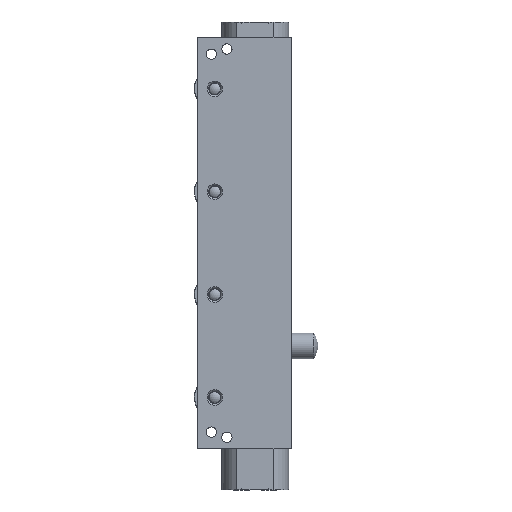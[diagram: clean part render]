
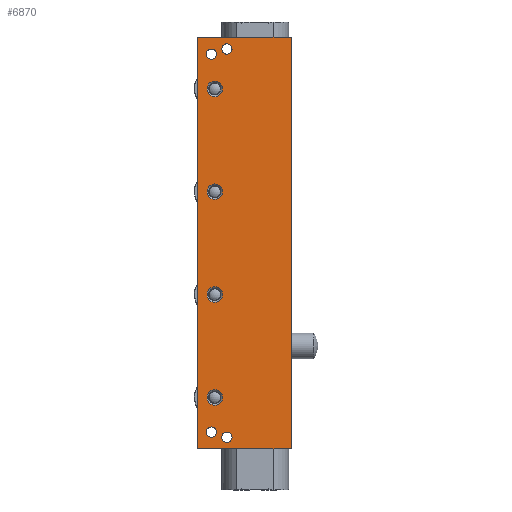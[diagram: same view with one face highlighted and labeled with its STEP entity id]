
A CAD part, left-side view. The second image highlights one B-rep face of the part: STEP entity #6870.
In plain terms, the highlighted planar face has unit normal (-1, 0, 0).
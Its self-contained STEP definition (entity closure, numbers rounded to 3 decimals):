
#190=FACE_BOUND('',#1183,.T.);
#191=FACE_BOUND('',#1184,.T.);
#192=FACE_BOUND('',#1185,.T.);
#193=FACE_BOUND('',#1186,.T.);
#194=FACE_BOUND('',#1187,.T.);
#195=FACE_BOUND('',#1188,.T.);
#196=FACE_BOUND('',#1189,.T.);
#197=FACE_BOUND('',#1190,.T.);
#355=PLANE('',#7799);
#778=FACE_OUTER_BOUND('',#1182,.T.);
#1182=EDGE_LOOP('',(#5731,#5732,#5733,#5734));
#1183=EDGE_LOOP('',(#5735));
#1184=EDGE_LOOP('',(#5736));
#1185=EDGE_LOOP('',(#5737,#5738));
#1186=EDGE_LOOP('',(#5739,#5740));
#1187=EDGE_LOOP('',(#5741,#5742));
#1188=EDGE_LOOP('',(#5743,#5744));
#1189=EDGE_LOOP('',(#5745));
#1190=EDGE_LOOP('',(#5746));
#1471=LINE('',#11779,#1761);
#1477=LINE('',#11812,#1767);
#1512=LINE('',#12121,#1802);
#1513=LINE('',#12122,#1803);
#1761=VECTOR('',#9599,10.);
#1767=VECTOR('',#9627,10.);
#1802=VECTOR('',#9838,10.);
#1803=VECTOR('',#9839,10.);
#2362=CIRCLE('',#7725,3.);
#2379=CIRCLE('',#7752,2.);
#2380=CIRCLE('',#7753,2.);
#2382=CIRCLE('',#7757,2.);
#2383=CIRCLE('',#7758,2.);
#2388=CIRCLE('',#7765,2.);
#2389=CIRCLE('',#7766,2.);
#2392=CIRCLE('',#7772,2.);
#2393=CIRCLE('',#7773,2.);
#2401=CIRCLE('',#7786,3.);
#2406=CIRCLE('',#7793,3.);
#2411=CIRCLE('',#7800,3.);
#2997=VERTEX_POINT('',#11777);
#2998=VERTEX_POINT('',#11778);
#3013=VERTEX_POINT('',#11809);
#3014=VERTEX_POINT('',#11811);
#3027=VERTEX_POINT('',#11849);
#3048=VERTEX_POINT('',#11969);
#3049=VERTEX_POINT('',#11970);
#3051=VERTEX_POINT('',#11979);
#3052=VERTEX_POINT('',#11980);
#3056=VERTEX_POINT('',#11993);
#3057=VERTEX_POINT('',#11994);
#3060=VERTEX_POINT('',#12007);
#3061=VERTEX_POINT('',#12008);
#3073=VERTEX_POINT('',#12093);
#3078=VERTEX_POINT('',#12107);
#3083=VERTEX_POINT('',#12123);
#3904=EDGE_CURVE('',#2997,#2998,#1471,.T.);
#3920=EDGE_CURVE('',#3014,#3013,#1477,.T.);
#3940=EDGE_CURVE('',#3027,#3027,#2362,.T.);
#3971=EDGE_CURVE('',#3048,#3049,#2379,.T.);
#3972=EDGE_CURVE('',#3049,#3048,#2380,.T.);
#3976=EDGE_CURVE('',#3051,#3052,#2382,.T.);
#3977=EDGE_CURVE('',#3052,#3051,#2383,.T.);
#3983=EDGE_CURVE('',#3056,#3057,#2388,.T.);
#3984=EDGE_CURVE('',#3057,#3056,#2389,.T.);
#3990=EDGE_CURVE('',#3060,#3061,#2392,.T.);
#3991=EDGE_CURVE('',#3061,#3060,#2393,.T.);
#4011=EDGE_CURVE('',#3073,#3073,#2401,.T.);
#4018=EDGE_CURVE('',#3078,#3078,#2406,.T.);
#4025=EDGE_CURVE('',#2998,#3013,#1512,.T.);
#4026=EDGE_CURVE('',#3014,#2997,#1513,.T.);
#4027=EDGE_CURVE('',#3083,#3083,#2411,.T.);
#5731=ORIENTED_EDGE('',*,*,#3920,.T.);
#5732=ORIENTED_EDGE('',*,*,#4025,.F.);
#5733=ORIENTED_EDGE('',*,*,#3904,.F.);
#5734=ORIENTED_EDGE('',*,*,#4026,.F.);
#5735=ORIENTED_EDGE('',*,*,#4018,.F.);
#5736=ORIENTED_EDGE('',*,*,#3940,.F.);
#5737=ORIENTED_EDGE('',*,*,#3971,.T.);
#5738=ORIENTED_EDGE('',*,*,#3972,.T.);
#5739=ORIENTED_EDGE('',*,*,#3976,.T.);
#5740=ORIENTED_EDGE('',*,*,#3977,.T.);
#5741=ORIENTED_EDGE('',*,*,#3983,.T.);
#5742=ORIENTED_EDGE('',*,*,#3984,.T.);
#5743=ORIENTED_EDGE('',*,*,#3990,.T.);
#5744=ORIENTED_EDGE('',*,*,#3991,.T.);
#5745=ORIENTED_EDGE('',*,*,#4011,.F.);
#5746=ORIENTED_EDGE('',*,*,#4027,.F.);
#6870=ADVANCED_FACE('',(#778,#190,#191,#192,#193,#194,#195,#196,#197),#355,
 .T.);
#7725=AXIS2_PLACEMENT_3D('',#11850,#9665,#9666);
#7752=AXIS2_PLACEMENT_3D('',#11971,#9727,#9728);
#7753=AXIS2_PLACEMENT_3D('',#11972,#9729,#9730);
#7757=AXIS2_PLACEMENT_3D('',#11981,#9739,#9740);
#7758=AXIS2_PLACEMENT_3D('',#11982,#9741,#9742);
#7765=AXIS2_PLACEMENT_3D('',#11995,#9756,#9757);
#7766=AXIS2_PLACEMENT_3D('',#11996,#9758,#9759);
#7772=AXIS2_PLACEMENT_3D('',#12009,#9773,#9774);
#7773=AXIS2_PLACEMENT_3D('',#12010,#9775,#9776);
#7786=AXIS2_PLACEMENT_3D('',#12094,#9806,#9807);
#7793=AXIS2_PLACEMENT_3D('',#12108,#9822,#9823);
#7799=AXIS2_PLACEMENT_3D('',#12120,#9836,#9837);
#7800=AXIS2_PLACEMENT_3D('',#12124,#9840,#9841);
#9599=DIRECTION('',(0.,0.,-1.));
#9627=DIRECTION('',(0.,0.,-1.));
#9665=DIRECTION('center_axis',(-1.,0.,0.));
#9666=DIRECTION('ref_axis',(0.,0.,-1.));
#9727=DIRECTION('center_axis',(1.,0.,0.));
#9728=DIRECTION('ref_axis',(0.,0.,1.));
#9729=DIRECTION('center_axis',(1.,0.,0.));
#9730=DIRECTION('ref_axis',(0.,0.,1.));
#9739=DIRECTION('center_axis',(1.,0.,0.));
#9740=DIRECTION('ref_axis',(0.,0.,1.));
#9741=DIRECTION('center_axis',(1.,0.,0.));
#9742=DIRECTION('ref_axis',(0.,0.,1.));
#9756=DIRECTION('center_axis',(1.,0.,0.));
#9757=DIRECTION('ref_axis',(0.,0.,-1.));
#9758=DIRECTION('center_axis',(1.,0.,0.));
#9759=DIRECTION('ref_axis',(0.,0.,-1.));
#9773=DIRECTION('center_axis',(1.,0.,0.));
#9774=DIRECTION('ref_axis',(0.,0.,-1.));
#9775=DIRECTION('center_axis',(1.,0.,0.));
#9776=DIRECTION('ref_axis',(0.,0.,-1.));
#9806=DIRECTION('center_axis',(-1.,0.,0.));
#9807=DIRECTION('ref_axis',(0.,0.,-1.));
#9822=DIRECTION('center_axis',(-1.,0.,0.));
#9823=DIRECTION('ref_axis',(0.,0.,-1.));
#9836=DIRECTION('center_axis',(-1.,0.,0.));
#9837=DIRECTION('ref_axis',(0.,1.,0.));
#9838=DIRECTION('',(0.,1.,0.));
#9839=DIRECTION('',(0.,-1.,0.));
#9840=DIRECTION('center_axis',(-1.,0.,0.));
#9841=DIRECTION('ref_axis',(0.,0.,-1.));
#11777=CARTESIAN_POINT('',(-10.9,-18.25,80.));
#11778=CARTESIAN_POINT('',(-10.9,-18.25,-80.));
#11779=CARTESIAN_POINT('',(-10.9,-18.25,0.));
#11809=CARTESIAN_POINT('',(-10.9,18.25,-80.));
#11811=CARTESIAN_POINT('',(-10.9,18.25,80.));
#11812=CARTESIAN_POINT('',(-10.9,18.25,0.));
#11849=CARTESIAN_POINT('',(-10.9,11.45,-57.));
#11850=CARTESIAN_POINT('Origin',(-10.9,11.45,-60.));
#11969=CARTESIAN_POINT('',(-10.9,6.75,-73.5));
#11970=CARTESIAN_POINT('',(-10.9,6.75,-77.5));
#11971=CARTESIAN_POINT('Origin',(-10.9,6.75,-75.5));
#11972=CARTESIAN_POINT('Origin',(-10.9,6.75,-75.5));
#11979=CARTESIAN_POINT('',(-10.9,12.75,-71.5));
#11980=CARTESIAN_POINT('',(-10.9,12.75,-75.5));
#11981=CARTESIAN_POINT('Origin',(-10.9,12.75,-73.5));
#11982=CARTESIAN_POINT('Origin',(-10.9,12.75,-73.5));
#11993=CARTESIAN_POINT('',(-10.9,6.75,73.5));
#11994=CARTESIAN_POINT('',(-10.9,6.75,77.5));
#11995=CARTESIAN_POINT('Origin',(-10.9,6.75,75.5));
#11996=CARTESIAN_POINT('Origin',(-10.9,6.75,75.5));
#12007=CARTESIAN_POINT('',(-10.9,12.75,71.5));
#12008=CARTESIAN_POINT('',(-10.9,12.75,75.5));
#12009=CARTESIAN_POINT('Origin',(-10.9,12.75,73.5));
#12010=CARTESIAN_POINT('Origin',(-10.9,12.75,73.5));
#12093=CARTESIAN_POINT('',(-10.9,11.45,-17.));
#12094=CARTESIAN_POINT('Origin',(-10.9,11.45,-20.));
#12107=CARTESIAN_POINT('',(-10.9,11.45,23.));
#12108=CARTESIAN_POINT('Origin',(-10.9,11.45,20.));
#12120=CARTESIAN_POINT('Origin',(-10.9,-18.25,0.));
#12121=CARTESIAN_POINT('',(-10.9,-18.25,-80.));
#12122=CARTESIAN_POINT('',(-10.9,-18.25,80.));
#12123=CARTESIAN_POINT('',(-10.9,11.45,63.));
#12124=CARTESIAN_POINT('Origin',(-10.9,11.45,60.));
